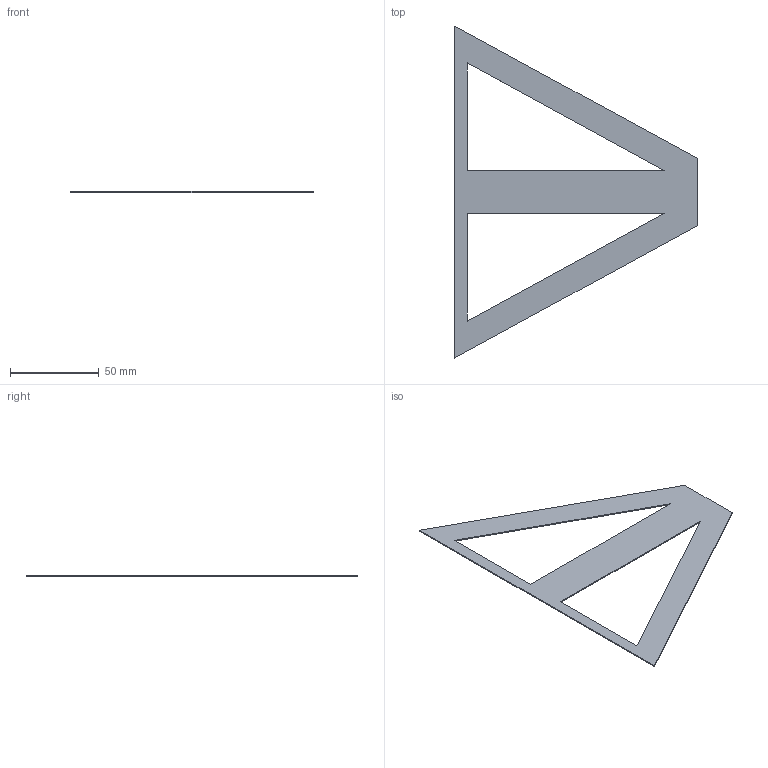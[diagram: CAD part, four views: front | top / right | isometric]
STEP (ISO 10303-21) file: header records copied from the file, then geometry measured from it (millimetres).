
FILE_DESCRIPTION(('STEP AP203'), '1');
FILE_NAME('øàáëîí ìàñêó1', '', ('UNSPECIFIED'), ('UNSPECIFIED'), 'ASCON STEP Converter 1.3', 'ASCON Math Kernel', '');
FILE_SCHEMA(('CONFIG_CONTROL_DESIGN'));
Length unit declared in the file: millimetre
Bounding box: 137 x 187.56 x 0.6 mm (x, y, z)
Volume: 5192.1 mm3; surface area: 17989.3 mm2
Topology: 1 solids, 1 shells, 12 faces, 30 edges, 20 vertices
Faces by surface type: plane 12
Entity records: 502 total; most frequent: CARTESIAN_POINT 63, ORIENTED_EDGE 60, DIRECTION 56, EDGE_CURVE 30, LINE 30, VECTOR 30, VERTEX_POINT 20, FACE_BOUND 16
